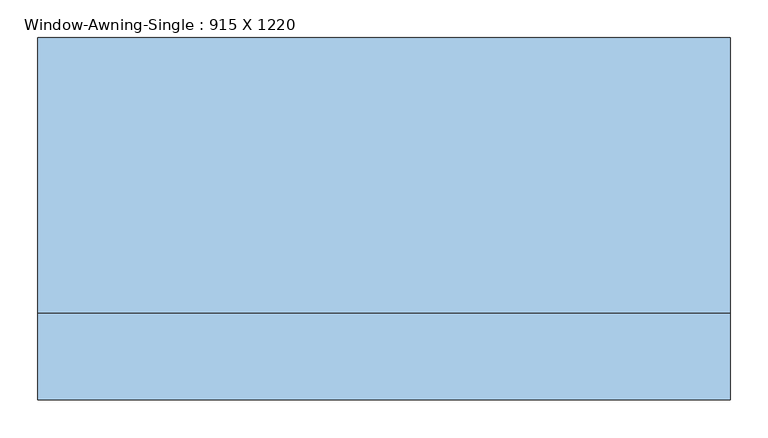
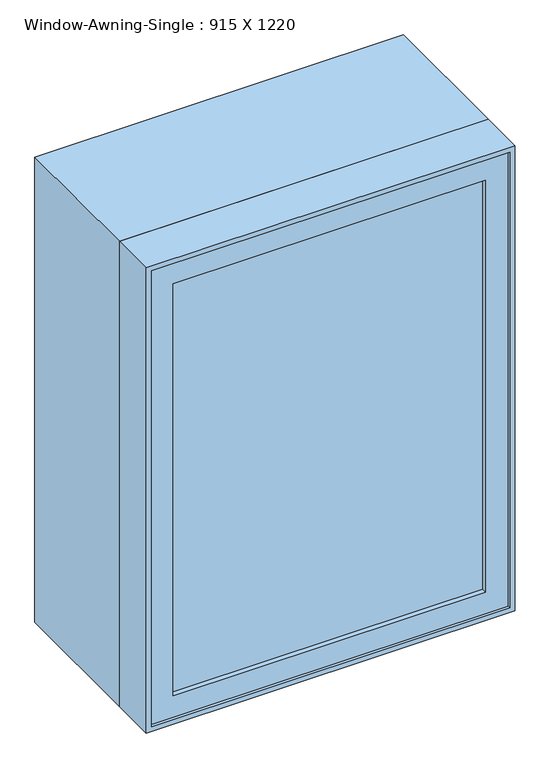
"""IFC4 building model written with IfcOpenShell, lengths in millimetres: window geometry, Window-Awning-Single : 915 X 1220."""

from ifc_helpers import new_model, si_unit, frame, origin, place, context, project, spatial, polyline, outline, extrude, faceted_brep, source, transform, mapped, element, save


def window_awning_single_915_x_1220_806fc205(model_context):
    return source(origin(), model_context, "Body", "SolidModel", [
        faceted_brep([(444.8, -198.25, 927.1), (-444.8, -198.25, 927.1), (-444.8, -249.05, 927.1), (444.8, -249.05, 927.1), (425.75, -134.75, 946.15), (-425.75, -134.75, 946.15), (-425.75, -198.25, 946.15), (425.75, -198.25, 946.15), (457.5, -249.05, 914.4), (-457.5, -249.05, 914.4), (-457.5, -134.75, 914.4), (457.5, -134.75, 914.4), (-444.8, -198.25, 2121.7), (-444.8, -249.05, 2121.7), (-425.75, -134.75, 2102.65), (-425.75, -198.25, 2102.65), (-457.5, -249.05, 2134.4), (-457.5, -134.75, 2134.4), (444.8, -198.25, 2121.7), (444.8, -249.05, 2121.7), (425.75, -134.75, 2102.65), (425.75, -198.25, 2102.65), (457.5, -249.05, 2134.4), (457.5, -134.75, 2134.4)], [[[0, 1, 2, 3]], [[4, 5, 6, 7]], [[8, 9, 10, 11]], [[1, 12, 13, 2]], [[5, 14, 15, 6]], [[9, 16, 17, 10]], [[12, 18, 19, 13]], [[14, 20, 21, 15]], [[16, 22, 23, 17]], [[9, 8, 22, 16], [3, 2, 13, 19]], [[18, 0, 3, 19]], [[1, 0, 18, 12], [7, 6, 15, 21]], [[20, 4, 7, 21]], [[11, 10, 17, 23], [5, 4, 20, 14]], [[22, 8, 11, 23]]]),
        extrude(outline(polyline([(387.65, -230.0), (-387.65, -230.0), (-387.65, -223.65), (387.65, -223.65), (387.65, -230.0)])), frame((0.0, 0.0, 984.25), z_axis=(0.0, 0.0, 1.0), x_axis=(1.0, 0.0, 0.0)), (0.0, 0.0, 1.0), 1080.3),
        extrude(outline(polyline([(387.65, -217.3), (-387.65, -217.3), (-387.65, -210.95), (387.65, -210.95), (387.65, -217.3)])), frame((0.0, 0.0, 984.25), z_axis=(0.0, 0.0, 1.0), x_axis=(1.0, 0.0, 0.0)), (0.0, 0.0, 1.0), 1080.3),
        extrude(outline(polyline([(2121.7, -444.8), (927.1, -444.8), (927.1, 444.8), (2121.7, 444.8), (2121.7, -444.8)]), holes=[polyline([(984.25, -387.65), (2064.55, -387.65), (2064.55, 387.65), (984.25, 387.65), (984.25, -387.65)])]), frame((0.0, -242.7, 0.0), z_axis=(0.0, 1.0, 0.0), x_axis=(0.0, 0.0, 1.0)), (0.0, 0.0, 1.0), 44.45),
        extrude(outline(polyline([(2134.4, -457.5), (914.4, -457.5), (914.4, 457.5), (2134.4, 457.5), (2134.4, -457.5)]), holes=[polyline([(2115.35, -438.45), (2115.35, 438.45), (933.45, 438.45), (933.45, -438.45), (2115.35, -438.45)])]), frame((0.0, -134.75, 0.0), z_axis=(0.0, 1.0, 0.0), x_axis=(0.0, 0.0, 1.0)), (0.0, 0.0, 1.0), 364.75),
    ])


if __name__ == "__main__":
    model = new_model("IFC4")
    model_context = context("Model", 3, world=origin())
    ifc_project = project(units=[si_unit("LENGTHUNIT", "METRE", prefix="MILLI")], contexts=[model_context])
    site = spatial("IfcSite", under=ifc_project)
    building = spatial("IfcBuilding", under=site)
    placement = place(None, origin())
    window_awning_single_915_x_1220_shape = window_awning_single_915_x_1220_806fc205(model_context)
    element("IfcWindow", 1, ObjectType="Window-Awning-Single : 915 X 1220", at=placement, inside=building, context=model_context, shape_type="MappedRepresentation", body=[
        mapped(window_awning_single_915_x_1220_shape, transform((0.0, 0.0, 0.0), x_axis=(1.0, 0.0, 0.0), y_axis=(0.0, 1.0, 0.0), z_axis=(0.0, 0.0, 1.0))),
    ])
    save(model, "model.ifc")
